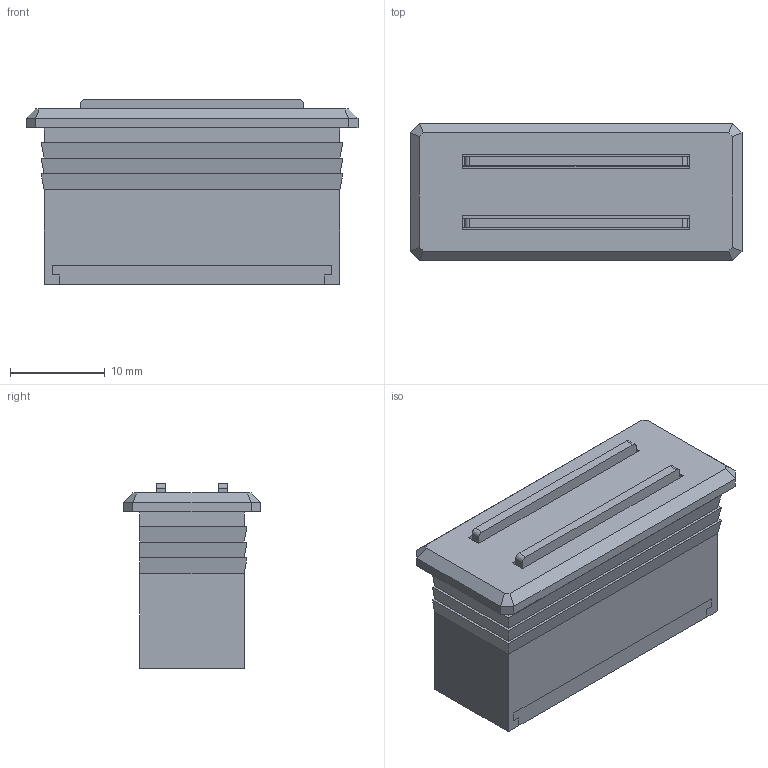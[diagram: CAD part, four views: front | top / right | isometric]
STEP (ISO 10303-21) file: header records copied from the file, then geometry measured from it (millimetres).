
FILE_DESCRIPTION(/* description */ (''),/* implementation_level */ '2;1');
FILE_NAME(/* name */ '\\NAS\db20\B-M110-312\DR_B-M110-312.stp',/* time_stamp */ '2017-09-08T10:16:48+09:00',/* author */ ('user'),/* organization */ (''),/* preprocessor_version */ 'ST-DEVELOPER v15.6',/* originating_system */ 'Autodesk Inventor 2015',/* authorisation */ '');
FILE_SCHEMA (('AUTOMOTIVE_DESIGN { 1 0 10303 214 3 1 1 }'));
Length unit declared in the file: millimetre
Products named in the file (1): DR_B-M110-312
Bounding box: 35 x 14.5 x 19.5 mm (x, y, z)
Volume: 5763.8 mm3; surface area: 7418.5 mm2
Topology: 5 solids, 5 shells, 123 faces, 319 edges, 208 vertices
Faces by surface type: plane 111, cylinder 12
Entity records: 3713 total; most frequent: CARTESIAN_POINT 651, ORIENTED_EDGE 638, DIRECTION 591, EDGE_CURVE 319, LINE 295, VECTOR 295, VERTEX_POINT 208, AXIS2_PLACEMENT_3D 148
